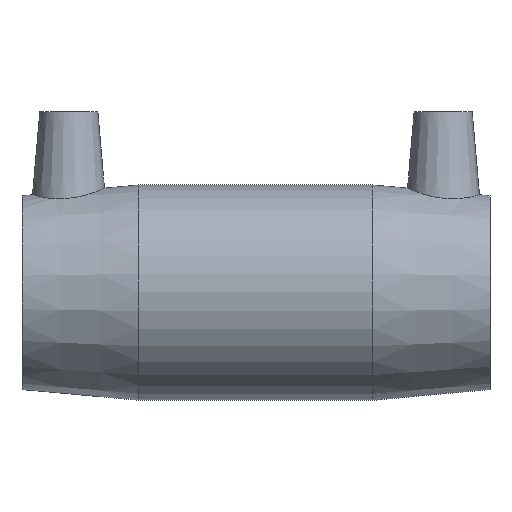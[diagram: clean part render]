
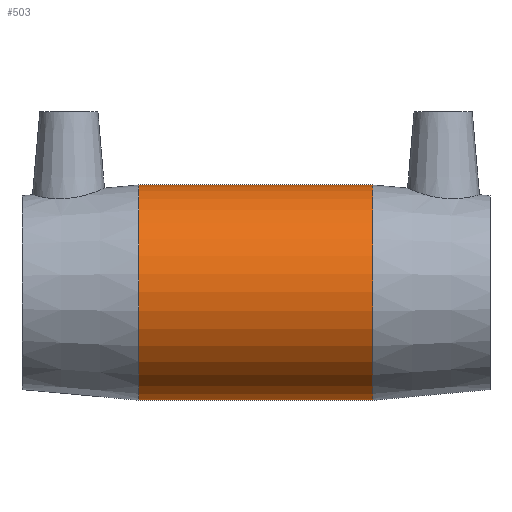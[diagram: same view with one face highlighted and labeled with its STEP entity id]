
A CAD part, top view. The second image highlights one B-rep face of the part: STEP entity #503.
In plain terms, the highlighted cylindrical face has radius 27.813 mm (diameter 55.626 mm), a full revolution.
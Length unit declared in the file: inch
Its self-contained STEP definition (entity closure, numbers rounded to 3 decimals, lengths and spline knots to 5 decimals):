
#26=FACE_BOUND('',#101,.T.);
#64=FACE_OUTER_BOUND('',#100,.T.);
#100=EDGE_LOOP('',(#384,#385,#386,#387,#388,#389));
#101=EDGE_LOOP('',(#390,#391));
#128=B_SPLINE_CURVE_WITH_KNOTS('',3,(#862,#863,#864,#865,#866,#867,#868,
#869,#870,#871,#872,#873,#874,#875,#876,#877,#878,#879),.UNSPECIFIED.,.F.,
 .F.,(4,2,2,2,2,2,2,2,4),(0.,0.42496,0.84992,1.27488,
1.69983,2.11537,2.5309,2.94643,3.36196),
 .UNSPECIFIED.);
#129=B_SPLINE_CURVE_WITH_KNOTS('',3,(#880,#881,#882,#883,#884,#885,#886,
#887,#888,#889,#890,#891,#892,#893,#894,#895,#896,#897,#898,#899,#900,#901,
#902,#903,#904,#905,#906,#907,#908,#909,#910,#911,#912,#913,#914,#915,#916,
#917,#918,#919,#920,#921,#922,#923,#924,#925,#926,#927,#928,#929),
 .UNSPECIFIED.,.F.,.F.,(4,2,2,2,2,2,2,2,2,2,2,2,2,2,2,2,2,2,2,2,2,2,2,2,
4),(3.36196,3.7775,4.19303,4.60856,
5.02409,5.44905,5.87401,6.29897,6.72393,
7.14889,7.57384,7.9988,8.42376,8.83929,
9.25483,9.67036,10.08589,10.50142,10.91696,
11.33249,11.74802,12.17298,12.59794,13.0229,
13.44786),.UNSPECIFIED.);
#142=LINE('',#1054,#160);
#160=VECTOR('',#684,1.095);
#182=CIRCLE('',#567,1.095);
#183=CIRCLE('',#568,1.095);
#184=CIRCLE('',#569,1.095);
#185=CIRCLE('',#570,1.095);
#217=VERTEX_POINT('',#860);
#218=VERTEX_POINT('',#861);
#234=VERTEX_POINT('',#1049);
#235=VERTEX_POINT('',#1050);
#236=VERTEX_POINT('',#1053);
#237=VERTEX_POINT('',#1055);
#270=EDGE_CURVE('',#217,#218,#128,.T.);
#271=EDGE_CURVE('',#218,#217,#129,.T.);
#294=EDGE_CURVE('',#234,#235,#182,.T.);
#295=EDGE_CURVE('',#235,#234,#183,.T.);
#296=EDGE_CURVE('',#235,#236,#142,.T.);
#297=EDGE_CURVE('',#236,#237,#184,.T.);
#298=EDGE_CURVE('',#237,#236,#185,.T.);
#384=ORIENTED_EDGE('',*,*,#294,.F.);
#385=ORIENTED_EDGE('',*,*,#295,.F.);
#386=ORIENTED_EDGE('',*,*,#296,.T.);
#387=ORIENTED_EDGE('',*,*,#297,.T.);
#388=ORIENTED_EDGE('',*,*,#298,.T.);
#389=ORIENTED_EDGE('',*,*,#296,.F.);
#390=ORIENTED_EDGE('',*,*,#270,.T.);
#391=ORIENTED_EDGE('',*,*,#271,.T.);
#482=CYLINDRICAL_SURFACE('',#566,1.095);
#503=ADVANCED_FACE('',(#64,#26),#482,.T.);
#566=AXIS2_PLACEMENT_3D('',#1048,#678,#679);
#567=AXIS2_PLACEMENT_3D('',#1051,#680,#681);
#568=AXIS2_PLACEMENT_3D('',#1052,#682,#683);
#569=AXIS2_PLACEMENT_3D('',#1056,#685,#686);
#570=AXIS2_PLACEMENT_3D('',#1057,#687,#688);
#678=DIRECTION('center_axis',(1.,0.,0.));
#679=DIRECTION('ref_axis',(0.,1.,0.));
#680=DIRECTION('center_axis',(1.,0.,0.));
#681=DIRECTION('ref_axis',(0.,0.,-1.));
#682=DIRECTION('center_axis',(1.,0.,0.));
#683=DIRECTION('ref_axis',(0.,0.,-1.));
#684=DIRECTION('',(-1.,0.,0.));
#685=DIRECTION('center_axis',(1.,0.,0.));
#686=DIRECTION('ref_axis',(0.,0.,-1.));
#687=DIRECTION('center_axis',(1.,0.,0.));
#688=DIRECTION('ref_axis',(0.,0.,-1.));
#860=CARTESIAN_POINT('',(0.,-0.82874,-0.71569));
#861=CARTESIAN_POINT('',(0.82874,0.,-1.095));
#862=CARTESIAN_POINT('Ctrl Pts',(0.,-0.82874,
-0.71569));
#863=CARTESIAN_POINT('Ctrl Pts',(0.05577,-0.82874,
-0.71569));
#864=CARTESIAN_POINT('Ctrl Pts',(0.11167,-0.82306,-0.72241));
#865=CARTESIAN_POINT('Ctrl Pts',(0.22047,-0.8008,-0.747));
#866=CARTESIAN_POINT('Ctrl Pts',(0.27339,-0.78425,-0.76476));
#867=CARTESIAN_POINT('Ctrl Pts',(0.37386,-0.74163,-0.80616));
#868=CARTESIAN_POINT('Ctrl Pts',(0.42149,-0.71554,-0.82976));
#869=CARTESIAN_POINT('Ctrl Pts',(0.50957,-0.65573,-0.87779));
#870=CARTESIAN_POINT('Ctrl Pts',(0.55002,-0.622,-0.9022));
#871=CARTESIAN_POINT('Ctrl Pts',(0.6212,-0.55082,-0.94729));
#872=CARTESIAN_POINT('Ctrl Pts',(0.65475,-0.51083,-0.96977));
#873=CARTESIAN_POINT('Ctrl Pts',(0.71477,-0.42279,-1.01126));
#874=CARTESIAN_POINT('Ctrl Pts',(0.74124,-0.37472,-1.03026));
#875=CARTESIAN_POINT('Ctrl Pts',(0.78438,-0.27313,-1.06172));
#876=CARTESIAN_POINT('Ctrl Pts',(0.80109,-0.2195,-1.0742));
#877=CARTESIAN_POINT('Ctrl Pts',(0.82327,-0.1102,-1.09084));
#878=CARTESIAN_POINT('Ctrl Pts',(0.82874,-0.05453,
-1.095));
#879=CARTESIAN_POINT('Ctrl Pts',(0.82874,0.,
-1.095));
#880=CARTESIAN_POINT('Ctrl Pts',(0.82874,0.,
-1.095));
#881=CARTESIAN_POINT('Ctrl Pts',(0.82874,0.05453,-1.095));
#882=CARTESIAN_POINT('Ctrl Pts',(0.82327,0.1102,-1.09084));
#883=CARTESIAN_POINT('Ctrl Pts',(0.80109,0.2195,-1.0742));
#884=CARTESIAN_POINT('Ctrl Pts',(0.78438,0.27313,-1.06172));
#885=CARTESIAN_POINT('Ctrl Pts',(0.74124,0.37472,-1.03026));
#886=CARTESIAN_POINT('Ctrl Pts',(0.71477,0.42279,-1.01126));
#887=CARTESIAN_POINT('Ctrl Pts',(0.65475,0.51083,-0.96977));
#888=CARTESIAN_POINT('Ctrl Pts',(0.6212,0.55082,-0.94729));
#889=CARTESIAN_POINT('Ctrl Pts',(0.55002,0.622,-0.9022));
#890=CARTESIAN_POINT('Ctrl Pts',(0.50957,0.65573,-0.87779));
#891=CARTESIAN_POINT('Ctrl Pts',(0.42149,0.71554,-0.82976));
#892=CARTESIAN_POINT('Ctrl Pts',(0.37386,0.74163,-0.80616));
#893=CARTESIAN_POINT('Ctrl Pts',(0.27339,0.78425,-0.76476));
#894=CARTESIAN_POINT('Ctrl Pts',(0.22047,0.8008,-0.747));
#895=CARTESIAN_POINT('Ctrl Pts',(0.11167,0.82306,-0.72241));
#896=CARTESIAN_POINT('Ctrl Pts',(0.05577,0.82874,-0.71569));
#897=CARTESIAN_POINT('Ctrl Pts',(-0.05577,0.82874,
-0.71569));
#898=CARTESIAN_POINT('Ctrl Pts',(-0.11167,0.82306,-0.72241));
#899=CARTESIAN_POINT('Ctrl Pts',(-0.22047,0.8008,-0.747));
#900=CARTESIAN_POINT('Ctrl Pts',(-0.27339,0.78425,-0.76476));
#901=CARTESIAN_POINT('Ctrl Pts',(-0.37386,0.74163,-0.80616));
#902=CARTESIAN_POINT('Ctrl Pts',(-0.42149,0.71554,-0.82976));
#903=CARTESIAN_POINT('Ctrl Pts',(-0.50957,0.65573,-0.87779));
#904=CARTESIAN_POINT('Ctrl Pts',(-0.55002,0.622,-0.9022));
#905=CARTESIAN_POINT('Ctrl Pts',(-0.6212,0.55082,-0.94729));
#906=CARTESIAN_POINT('Ctrl Pts',(-0.65475,0.51083,-0.96977));
#907=CARTESIAN_POINT('Ctrl Pts',(-0.71477,0.42279,-1.01126));
#908=CARTESIAN_POINT('Ctrl Pts',(-0.74124,0.37472,-1.03026));
#909=CARTESIAN_POINT('Ctrl Pts',(-0.78438,0.27313,-1.06172));
#910=CARTESIAN_POINT('Ctrl Pts',(-0.80109,0.2195,-1.0742));
#911=CARTESIAN_POINT('Ctrl Pts',(-0.82327,0.1102,-1.09084));
#912=CARTESIAN_POINT('Ctrl Pts',(-0.82874,0.05453,
-1.095));
#913=CARTESIAN_POINT('Ctrl Pts',(-0.82874,-0.05453,
-1.095));
#914=CARTESIAN_POINT('Ctrl Pts',(-0.82327,-0.1102,
-1.09084));
#915=CARTESIAN_POINT('Ctrl Pts',(-0.80109,-0.2195,
-1.0742));
#916=CARTESIAN_POINT('Ctrl Pts',(-0.78438,-0.27313,
-1.06172));
#917=CARTESIAN_POINT('Ctrl Pts',(-0.74124,-0.37472,
-1.03026));
#918=CARTESIAN_POINT('Ctrl Pts',(-0.71477,-0.42279,
-1.01126));
#919=CARTESIAN_POINT('Ctrl Pts',(-0.65475,-0.51083,
-0.96977));
#920=CARTESIAN_POINT('Ctrl Pts',(-0.6212,-0.55082,
-0.94729));
#921=CARTESIAN_POINT('Ctrl Pts',(-0.55002,-0.622,-0.9022));
#922=CARTESIAN_POINT('Ctrl Pts',(-0.50957,-0.65573,
-0.87779));
#923=CARTESIAN_POINT('Ctrl Pts',(-0.42149,-0.71554,-0.82976));
#924=CARTESIAN_POINT('Ctrl Pts',(-0.37386,-0.74163,-0.80616));
#925=CARTESIAN_POINT('Ctrl Pts',(-0.27339,-0.78425,
-0.76476));
#926=CARTESIAN_POINT('Ctrl Pts',(-0.22047,-0.8008,
-0.747));
#927=CARTESIAN_POINT('Ctrl Pts',(-0.11167,-0.82306,-0.72241));
#928=CARTESIAN_POINT('Ctrl Pts',(-0.05577,-0.82874,
-0.71569));
#929=CARTESIAN_POINT('Ctrl Pts',(0.,-0.82874,-0.71569));
#1048=CARTESIAN_POINT('Origin',(0.,0.,0.));
#1049=CARTESIAN_POINT('',(1.19,1.095,0.));
#1050=CARTESIAN_POINT('',(1.19,-1.095,0.));
#1051=CARTESIAN_POINT('Origin',(1.19,0.,0.));
#1052=CARTESIAN_POINT('Origin',(1.19,0.,0.));
#1053=CARTESIAN_POINT('',(-1.19,-1.095,0.));
#1054=CARTESIAN_POINT('',(0.,-1.095,0.));
#1055=CARTESIAN_POINT('',(-1.19,1.095,0.));
#1056=CARTESIAN_POINT('Origin',(-1.19,0.,0.));
#1057=CARTESIAN_POINT('Origin',(-1.19,0.,0.));
